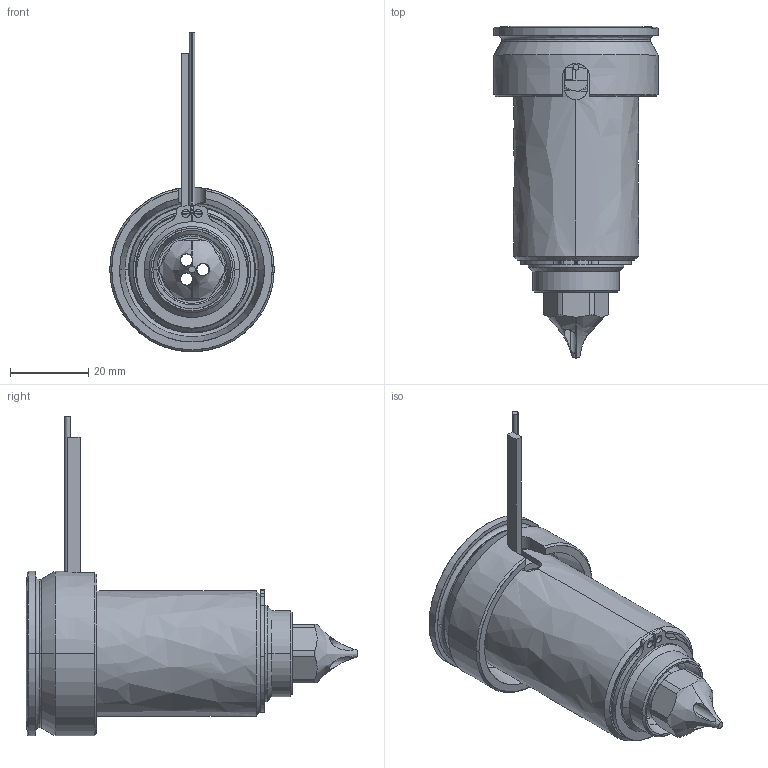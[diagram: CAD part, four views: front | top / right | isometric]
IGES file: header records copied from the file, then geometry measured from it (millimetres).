
Start section: SolidWorks IGES file using analytic representation for surfaces
Global section: file name: C:\Users\luca.EMPAD\Desktop\TEM\UGDL3612-M-A-1 [Øf=1.7 ØC=10].IGS; native system: SolidWorks 2012; preprocessor: SolidWorks 2012; author: luca; date: 120330.160603; units: millimetre
Bounding box: 42 x 84.8 x 81.65 mm (x, y, z)
Surface area: 27273.9 mm2 (no closed solid volume)
Topology: 0 solids, 0 shells, 131 faces, 2282 edges, 2282 vertices
Faces by surface type: revolution 83, bspline 48
